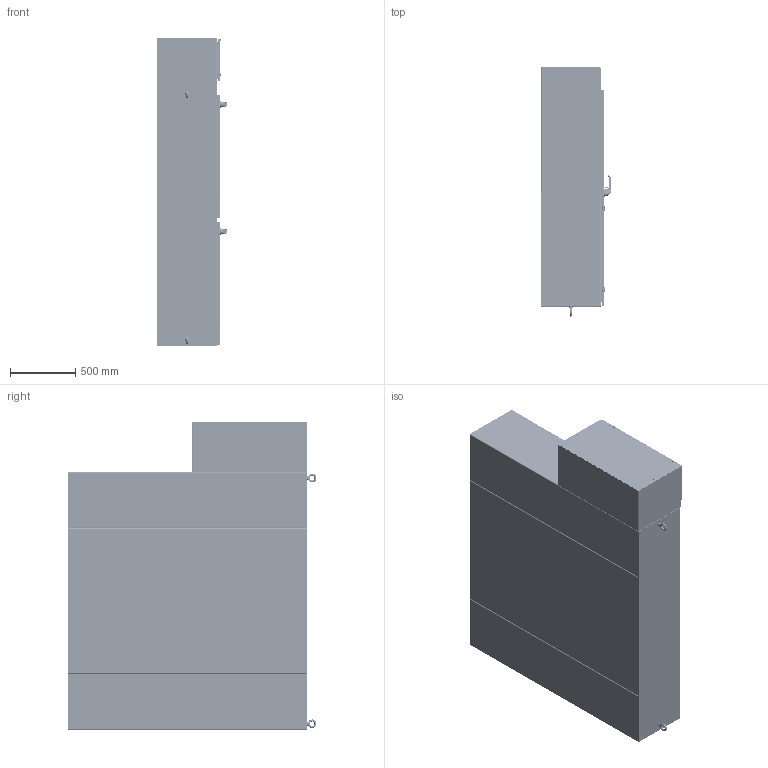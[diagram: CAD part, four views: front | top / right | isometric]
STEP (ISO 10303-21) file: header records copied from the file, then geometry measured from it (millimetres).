
FILE_DESCRIPTION((''),'2;1');
FILE_NAME('MODEL-421_ASM','2025-02-11T11:10:30',('joshi'),('SAGINAW CONTROL & ENGINEERING'),'CREO PARAMETRIC BY PTC INC, 2021284','CREO PARAMETRIC BY PTC INC, 2021284','');
FILE_SCHEMA(('AUTOMOTIVE_DESIGN { 1 0 10303 214 1 1 1 1 }'));
Length unit declared in the file: inch
Products named in the file (158): MODEL-421-TP; MODEL-421-R-SD; MODEL-421-L-SD; MODEL-421-BTM; MODEL-421-BCK; MODEL-421-M-DR; 100837; 111267; 100882; 100953_SCREW_MTG; 100953_PADLOCK_CATCH; 100953_SCREW_LARGE; 100953_INSERT_SHAFT; 100953_INSERT_PCH; 100953_GASKET; 100953_O-RING; 100953_BASE; 100953_SPRING; 100953_HANDLE; 100953_CAM_SHAFT; 100953_HANDLE_ASM; 100953_CAM_ADAPTER; 100953_EARTH_NUT; 100953_FLANGE_NUT; 100953_CAM_NUT; 100953_CP_INSERT; 100953_SPRING_CAM; 100953_TORSION_SPRING; 100953_SCREW_INSERT; 100953_ASM; 102237; 100030; 102237_ASM; MODEL-421-ROD-UPR-MD; 128146; 128145; 128144; 102482; MODEL-421-ROD-UPR-MD_ASM; 128143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
Assembly tree (342 placements, depth 5):
  MODEL-421_ASM
    MODEL-421-TP
    MODEL-421-R-SD
    MODEL-421-L-SD
    MODEL-421-BTM
    MODEL-421-BCK
    MODEL-421-M-DOOR-ASSY_ASM
      MODEL-421-M-DR
      100837  x7
      111267
      100882  x12
      100953_ASM
        100953_SCREW_MTG
        100953_PADLOCK_CATCH
        100953_SCREW_LARGE  x2
        100953_INSERT_SHAFT
        100953_INSERT_PCH
        100953_GASKET
        100953_O-RING
        100953_BASE
        100953_SPRING
        100953_HANDLE_ASM
          100953_HANDLE
          100953_CAM_SHAFT
        100953_CAM_ADAPTER
        100953_EARTH_NUT
        100953_FLANGE_NUT
        100953_CAM_NUT
        100953_CP_INSERT
        100953_SPRING_CAM
        100953_TORSION_SPRING
        100953_SCREW_INSERT
      102237_ASM
        102237
        100030  x2
      MODEL-421-ROD-UPR-MD_ASM
        MODEL-421-ROD-UPR-MD
        128146
        128145
        128144
        102482  x2
      128143  x2
      112504  x2
      MODEL-421-ROD-LWR-MD_ASM
        MODEL-421-ROD-LWR-MD
        128146
        128145
        128144
        102482  x2
      MODEL-421-PR-GSKT-M
      128257_ASM  x4
        128257
      126393  x4
      102483  x4
      101369_ASM  x4
        101369
        101369-STUD
      101221  x4
    MODEL-421-S-DOOR-ASSY_ASM
      MODEL-421-S-DR
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Bounding box: 535.27 x 1903.6 x 2355.85 mm (x, y, z)
Volume: 52969170.1 mm3; surface area: 36010241.4 mm2
Topology: 364 solids, 364 shells, 32700 faces, 83091 edges, 51235 vertices
Faces by surface type: plane 11253, cylinder 8252, bspline 7731, torus 2586, cone 1581, sphere 972, extrusion 325
Entity records: 904257 total; most frequent: CARTESIAN_POINT 389797, ORIENTED_EDGE 78782, DIRECTION 73556, PRESENTATION_STYLE_ASSIGNMENT 39923, STYLED_ITEM 39533, CURVE_STYLE 39391, EDGE_CURVE 39391, AXIS2_PLACEMENT_3D 27485
